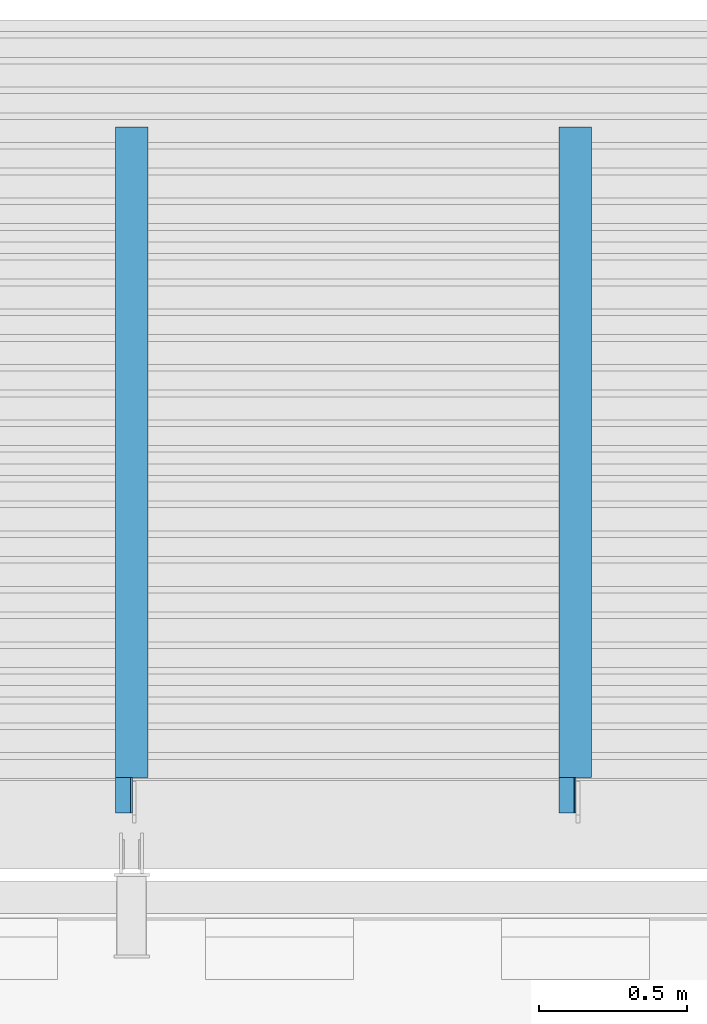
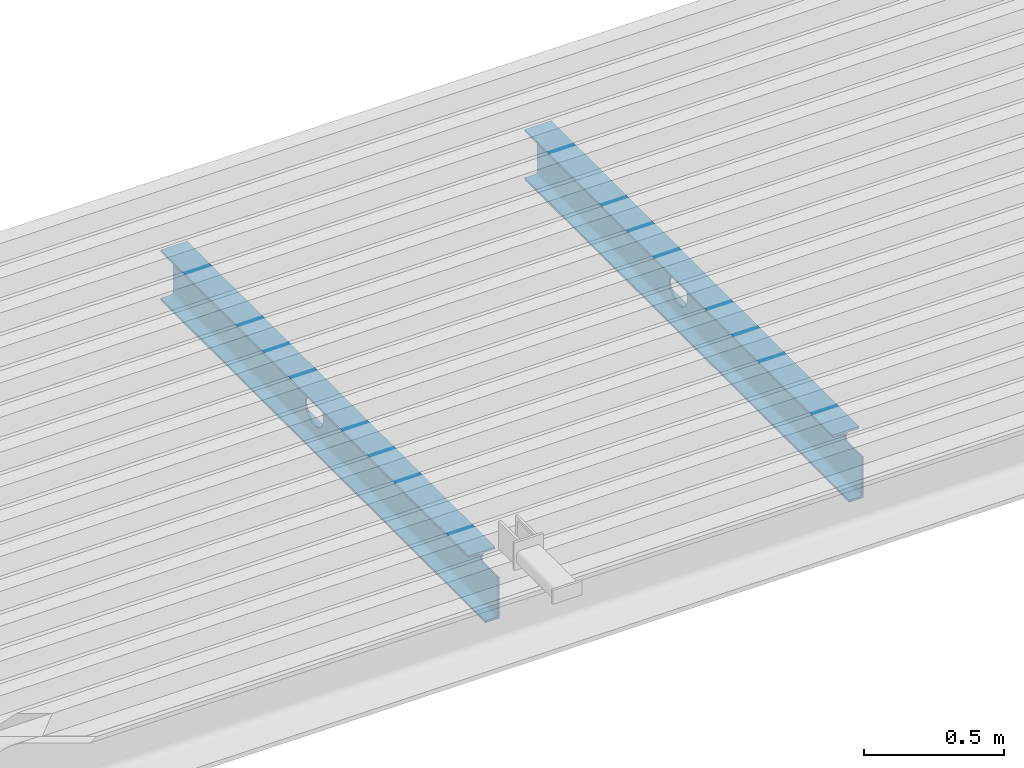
# One storey, part 27 of 34: 2 beams.
"""IFC2X3 building model written with IfcOpenShell, lengths in millimetres."""

from ifc_helpers import new_model, entity, si_unit, converted_unit, derived_unit, direction, frame, origin_with_axes, place, context, subcontext, project, spatial, faceted_brep, type_object, element, save


model = new_model("IFC2X3")

# Units and contexts
model_context = context("Model", 3, precision=0.01, world=frame((0.0, 4.29681676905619e-09, 0.0)), true_north=direction((4.01073788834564e-13, 1.0)))
plan_context = context("Plan", 3, precision=0.01, world=frame((0.0, 4.29681676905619e-09, 0.0)), true_north=direction((4.01073788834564e-13, 1.0)))
body_context = subcontext(model_context, "Body", "Model", "MODEL_VIEW")
ifc_project = project(units=[converted_unit("PLANEANGLEUNIT", "DEGREE", entity("IfcPositiveLengthMeasure", 0.0174532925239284), si_unit("PLANEANGLEUNIT", "RADIAN"), dimensions=[0, 0, 0, 0, 0, 0, 0]), si_unit("AREAUNIT", "SQUARE_METRE"), si_unit("LENGTHUNIT", "METRE", prefix="MILLI"), si_unit("MASSUNIT", "GRAM", prefix="KILO"), si_unit("POWERUNIT", "WATT"), si_unit("PRESSUREUNIT", "PASCAL"), si_unit("FORCEUNIT", "NEWTON", prefix="KILO"), si_unit("ELECTRICVOLTAGEUNIT", "VOLT"), si_unit("ELECTRICCURRENTUNIT", "AMPERE"), si_unit("THERMODYNAMICTEMPERATUREUNIT", "DEGREE_CELSIUS"), si_unit("TIMEUNIT", "SECOND"), si_unit("VOLUMEUNIT", "CUBIC_METRE"), derived_unit("LINEARVELOCITYUNIT", [(si_unit("LENGTHUNIT", "METRE"), 1), (si_unit("TIMEUNIT", "SECOND"), -1)]), derived_unit("VOLUMETRICFLOWRATEUNIT", [(si_unit("VOLUMEUNIT", "CUBIC_METRE"), 1), (si_unit("TIMEUNIT", "SECOND"), -1)]), derived_unit("THERMALTRANSMITTANCEUNIT", [(si_unit("POWERUNIT", "WATT"), 1), (si_unit("THERMODYNAMICTEMPERATUREUNIT", "KELVIN"), -1), (si_unit("AREAUNIT", "SQUARE_METRE"), -1)]), derived_unit("SOUNDPRESSUREUNIT", [(si_unit("PRESSUREUNIT", "PASCAL"), 1)])], contexts=[model_context, plan_context])

# Site, building, storey
site_placement = place(None, frame((0.0, -4.29681676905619e-09, 0.0), z_axis=(0.0, 0.0, 1.0), x_axis=(1.0, 0.0, 0.0)))
site = spatial("IfcSite", under=ifc_project, at=site_placement, Name="Gardermoen", CompositionType="ELEMENT")
building_placement = place(site_placement, frame((0.0, 4.29681676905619e-09, 0.0), z_axis=(0.0, 0.0, 1.0), x_axis=(1.0, 0.0, 0.0)))
building = spatial("IfcBuilding", under=site, at=building_placement, Name="TH", CompositionType="ELEMENT")
storey_placement = place(building_placement, origin_with_axes())
storey = spatial("IfcBuildingStorey", under=building, at=storey_placement, Name="F", CompositionType="ELEMENT", Elevation=0.0)

# Beams
beam_type = type_object("IfcBeamType", Name="IPE220", PredefinedType="NOTDEFINED")
beam_1_placement = place(storey_placement, frame((903999.999781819, 485029.995624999, 213310.0), z_axis=(0.0, 0.0, 1.0), x_axis=(0.0, 1.0, 0.0)))
element("IfcBeam", 1, at=beam_1_placement, inside=storey, type_object=beam_type, Name="STÅLBJELKE", ObjectType="IPE220", context=body_context, shape_type="Brep", body=[
    faceted_brep([(2327.65437500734, -55.0, -110.0), (2327.65437500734, 55.0, -110.0), (9.99999999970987, 55.0, -110.0), (9.99999999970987, -2.9500000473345, -110.0), (129.999999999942, -2.95000004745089, -110.0), (129.999999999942, -55.0, -110.0), (2327.65437500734, -55.0, -100.800000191), (129.999999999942, -55.0, -100.800000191), (2327.65437500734, -14.9500000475, -100.800000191), (129.999999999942, -14.9500000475, -100.800000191), (2327.65437500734, -12.6089161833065, -100.569423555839), (129.999999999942, -12.6089161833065, -100.569423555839), (2327.65437500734, -10.3577988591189, -99.8865545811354), (129.999999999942, -10.3577988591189, -99.8865545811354), (2327.65437500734, -8.28315725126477, -98.7776355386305), (129.999999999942, -8.28315725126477, -98.7776355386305), (2327.65437500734, -6.46471867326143, -97.2852815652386), (129.999999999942, -6.46471867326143, -97.2852815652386), (2327.65437500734, -4.97236469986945, -95.4668429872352), (129.999999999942, -4.97236469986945, -95.4668429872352), (2327.65437500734, -3.86344565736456, -93.3922013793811), (129.999999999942, -3.86344565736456, -93.3922013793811), (2327.65437500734, -3.18057668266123, -91.1410840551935), (129.999999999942, -3.18057668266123, -91.1410840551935), (2327.65437500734, -2.9500000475, -88.800000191), (129.999999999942, -2.96969830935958, -89.0), (9.99999999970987, -2.96969830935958, -89.0), (9.99999999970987, -2.9500000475, -88.800000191), (2327.65437500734, -2.9500000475, 88.800000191), (9.99999999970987, -2.9500000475, 70.0), (120.000000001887, -2.9500000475, 69.9999999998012), (121.564344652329, -2.9500000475, 70.1231165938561), (123.090169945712, -2.9500000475, 70.4894348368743), (124.539904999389, -2.9500000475, 71.0899347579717), (125.87785252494, -2.9500000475, 71.9098300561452), (127.071067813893, -2.9500000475, 72.9289321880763), (128.090169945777, -2.9500000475, 74.1221474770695), (128.910065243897, -2.9500000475, 75.4600950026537), (129.510565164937, -2.9500000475, 76.9098300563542), (129.876883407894, -2.9500000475, 78.4356553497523), (130.000000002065, -2.9500000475, 79.999999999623), (130.000000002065, -2.9500000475, 88.800000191), (1319.99999644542, -2.95000004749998, -62.4999973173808), (1330.28716071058, -2.95000004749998, -61.6475789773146), (1340.29371582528, -2.95000004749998, -59.113575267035), (1349.74671125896, -2.95000004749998, -54.9671072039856), (1358.38829393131, -2.95000004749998, -49.3212796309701), (1365.98274398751, -2.95000004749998, -42.3300960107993), (1372.32290462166, -2.95000004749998, -34.1842576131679), (1377.23583277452, -2.95000004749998, -25.1059616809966), (1380.58751656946, -2.95000004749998, -15.3428404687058), (1382.28653080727, -2.95000004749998, -5.16120647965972), (1382.28653080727, -2.95000004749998, 5.16121184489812), (1380.58751656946, -2.95000004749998, 15.3428458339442), (1377.23583277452, -2.95000004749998, 25.105967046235), (1372.32290462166, -2.95000004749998, 34.1842629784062), (1365.98274398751, -2.95000004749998, 42.3301013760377), (1358.38829393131, -2.95000004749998, 49.3212849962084), (1349.74671125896, -2.95000004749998, 54.9671125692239), (1340.29371582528, -2.95000004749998, 59.1135806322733), (1330.28716071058, -2.95000004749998, 61.6475843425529), (1319.99999866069, -2.95000004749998, 62.5000026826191), (1309.14699239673, -2.95000004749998, 61.5504878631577), (1298.62374438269, -2.95000004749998, 58.7307926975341), (1288.75000307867, -2.95000004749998, 54.1265921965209), (1279.82577711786, -2.95000004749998, 47.8777826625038), (1272.12222459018, -2.95000004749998, 40.1742310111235), (1265.87341404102, -2.95000004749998, 31.250005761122), (1261.26921241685, -2.95000004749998, 21.3762649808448), (1258.44951605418, -2.95000004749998, 10.8530172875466), (1257.50000000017, -2.95000004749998, 6.23736814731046e-06), (1258.44951481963, -2.95000004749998, -10.8530049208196), (1261.26920998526, -2.95000004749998, -21.3762529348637), (1265.87341048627, -2.95000004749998, -31.2499942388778), (1272.12222002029, -2.95000004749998, -40.1742201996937), (1279.82577167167, -2.95000004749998, -47.8777727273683), (1288.74999692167, -2.95000004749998, -54.1265832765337), (1298.62373770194, -2.95000004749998, -58.7307849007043), (1309.14698539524, -2.95000004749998, -61.5504812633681), (2327.65437500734, -3.18057668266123, 91.1410840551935), (130.000000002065, -3.18057668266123, 91.1410840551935), (2327.65437500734, -3.86344565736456, 93.3922013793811), (130.000000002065, -3.86344565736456, 93.3922013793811), (2327.65437500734, -4.97236469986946, 95.4668429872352), (130.000000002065, -4.97236469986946, 95.4668429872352), (2327.65437500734, -6.46471867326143, 97.2852815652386), (130.000000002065, -6.46471867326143, 97.2852815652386), (2327.65437500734, -8.28315725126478, 98.7776355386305), (130.000000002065, -8.28315725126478, 98.7776355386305), (2327.65437500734, -10.3577988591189, 99.8865545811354), (130.000000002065, -10.3577988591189, 99.8865545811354), (2327.65437500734, -12.6089161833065, 100.569423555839), (130.000000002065, -12.6089161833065, 100.569423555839), (2327.65437500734, -14.9500000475, 100.800000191), (130.000000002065, -14.9500000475, 100.800000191), (2327.65437500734, -55.0, 100.800000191), (130.000000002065, -55.0, 100.800000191), (2327.65437500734, -55.0, 110.0), (130.000000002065, -55.0, 110.0), (2327.65437500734, 55.0, 110.0), (130.000000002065, 55.0, 110.0), (2327.65437500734, 55.0, 100.800000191), (130.000000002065, 55.0, 100.800000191), (2327.65437500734, 14.9500000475, 100.800000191), (130.000000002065, 14.9500000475, 100.800000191), (2327.65437500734, 12.6089161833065, 100.569423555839), (130.000000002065, 12.6089161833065, 100.569423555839), (2327.65437500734, 10.3577988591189, 99.8865545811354), (130.000000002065, 10.3577988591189, 99.8865545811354), (2327.65437500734, 8.28315725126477, 98.7776355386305), (130.000000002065, 8.28315725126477, 98.7776355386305), (2327.65437500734, 6.46471867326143, 97.2852815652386), (130.000000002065, 6.46471867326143, 97.2852815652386), (2327.65437500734, 4.97236469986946, 95.4668429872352), (130.000000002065, 4.97236469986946, 95.4668429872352), (2327.65437500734, 3.86344565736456, 93.3922013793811), (130.000000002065, 3.86344565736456, 93.3922013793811), (2327.65437500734, 3.18057668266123, 91.1410840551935), (130.000000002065, 3.18057668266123, 91.1410840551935), (2327.65437500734, 2.9500000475, 88.800000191), (130.000000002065, 2.9500000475, 88.800000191), (2327.65437500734, 2.9500000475, -88.800000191), (130.000000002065, 2.95000004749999, 79.999999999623), (129.876883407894, 2.95000004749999, 78.4356553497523), (129.510565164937, 2.95000004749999, 76.9098300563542), (128.910065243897, 2.95000004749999, 75.4600950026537), (128.090169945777, 2.95000004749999, 74.1221474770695), (127.071067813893, 2.95000004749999, 72.9289321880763), (125.87785252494, 2.95000004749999, 71.9098300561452), (124.539904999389, 2.95000004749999, 71.0899347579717), (123.090169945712, 2.95000004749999, 70.4894348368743), (121.564344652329, 2.95000004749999, 70.1231165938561), (120.000000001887, 2.95000004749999, 69.9999999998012), (9.99999999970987, 2.9500000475, 70.0), (9.99999999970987, 2.9500000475, -88.800000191), (1330.28716071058, 2.95000004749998, -61.6475789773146), (1319.99999644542, 2.95000004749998, -62.4999973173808), (1309.14698539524, 2.95000004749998, -61.5504812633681), (1298.62373770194, 2.95000004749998, -58.7307849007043), (1288.74999692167, 2.95000004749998, -54.1265832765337), (1279.82577167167, 2.95000004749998, -47.8777727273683), (1272.12222002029, 2.95000004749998, -40.1742201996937), (1265.87341048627, 2.95000004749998, -31.2499942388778), (1261.26920998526, 2.95000004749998, -21.3762529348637), (1258.44951481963, 2.95000004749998, -10.8530049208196), (1257.50000000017, 2.95000004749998, 6.23736814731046e-06), (1258.44951605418, 2.95000004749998, 10.8530172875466), (1261.26921241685, 2.95000004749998, 21.3762649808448), (1265.87341404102, 2.95000004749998, 31.250005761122), (1272.12222459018, 2.95000004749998, 40.1742310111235), (1279.82577711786, 2.95000004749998, 47.8777826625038), (1288.75000307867, 2.95000004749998, 54.1265921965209), (1298.62374438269, 2.95000004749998, 58.7307926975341), (1309.14699239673, 2.95000004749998, 61.5504878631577), (1319.99999866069, 2.95000004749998, 62.5000026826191), (1330.28716071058, 2.95000004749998, 61.6475843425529), (1340.29371582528, 2.95000004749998, 59.1135806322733), (1349.74671125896, 2.95000004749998, 54.9671125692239), (1358.38829393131, 2.95000004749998, 49.3212849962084), (1365.98274398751, 2.95000004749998, 42.3301013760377), (1372.32290462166, 2.95000004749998, 34.1842629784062), (1377.23583277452, 2.95000004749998, 25.105967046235), (1380.58751656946, 2.95000004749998, 15.3428458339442), (1382.28653080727, 2.95000004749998, 5.16121184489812), (1382.28653080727, 2.95000004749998, -5.16120647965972), (1380.58751656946, 2.95000004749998, -15.3428404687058), (1377.23583277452, 2.95000004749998, -25.1059616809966), (1372.32290462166, 2.95000004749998, -34.1842576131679), (1365.98274398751, 2.95000004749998, -42.3300960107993), (1358.38829393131, 2.95000004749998, -49.3212796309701), (1349.74671125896, 2.95000004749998, -54.9671072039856), (1340.29371582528, 2.95000004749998, -59.113575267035), (2327.65437500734, 3.18057668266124, -91.1410840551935), (9.99999999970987, 3.18057668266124, -91.1410840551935), (2327.65437500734, 3.86344565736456, -93.3922013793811), (9.99999999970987, 3.86344565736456, -93.3922013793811), (2327.65437500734, 4.97236469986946, -95.4668429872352), (9.99999999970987, 4.97236469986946, -95.4668429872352), (2327.65437500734, 6.46471867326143, -97.2852815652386), (9.99999999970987, 6.46471867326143, -97.2852815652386), (2327.65437500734, 8.28315725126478, -98.7776355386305), (9.99999999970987, 8.28315725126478, -98.7776355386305), (2327.65437500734, 10.3577988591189, -99.8865545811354), (9.99999999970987, 10.3577988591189, -99.8865545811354), (2327.65437500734, 12.6089161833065, -100.569423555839), (9.99999999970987, 12.6089161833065, -100.569423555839), (2327.65437500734, 14.9500000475, -100.800000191), (9.99999999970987, 14.9500000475, -100.800000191), (2327.65437500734, 55.0, -100.800000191), (9.99999999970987, 55.0, -100.800000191), (129.999999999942, -2.95000004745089, -89.0), (9.99999999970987, -2.95000004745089, -89.0)], [[[0, 1, 2, 3, 4, 5]], [[6, 0, 5, 7]], [[8, 6, 7, 9]], [[10, 8, 9, 11]], [[12, 10, 11, 13]], [[14, 12, 13, 15]], [[16, 14, 15, 17]], [[18, 16, 17, 19]], [[20, 18, 19, 21]], [[22, 20, 21, 23]], [[24, 22, 23, 25, 26, 27]], [[28, 24, 27, 29, 30, 31, 32, 33, 34, 35, 36, 37, 38, 39, 40, 41], [42, 43, 44, 45, 46, 47, 48, 49, 50, 51, 52, 53, 54, 55, 56, 57, 58, 59, 60, 61, 62, 63, 64, 65, 66, 67, 68, 69, 70, 71, 72, 73, 74, 75, 76, 77, 78]], [[79, 28, 41, 80]], [[81, 79, 80, 82]], [[83, 81, 82, 84]], [[85, 83, 84, 86]], [[87, 85, 86, 88]], [[89, 87, 88, 90]], [[91, 89, 90, 92]], [[93, 91, 92, 94]], [[95, 93, 94, 96]], [[97, 95, 96, 98]], [[99, 97, 98, 100]], [[101, 99, 100, 102]], [[103, 101, 102, 104]], [[105, 103, 104, 106]], [[107, 105, 106, 108]], [[109, 107, 108, 110]], [[111, 109, 110, 112]], [[113, 111, 112, 114]], [[115, 113, 114, 116]], [[117, 115, 116, 118]], [[119, 117, 118, 120]], [[121, 119, 120, 122, 123, 124, 125, 126, 127, 128, 129, 130, 131, 132, 133, 134], [135, 136, 137, 138, 139, 140, 141, 142, 143, 144, 145, 146, 147, 148, 149, 150, 151, 152, 153, 154, 155, 156, 157, 158, 159, 160, 161, 162, 163, 164, 165, 166, 167, 168, 169, 170, 171]], [[172, 121, 134, 173]], [[174, 172, 173, 175]], [[176, 174, 175, 177]], [[178, 176, 177, 179]], [[180, 178, 179, 181]], [[182, 180, 181, 183]], [[184, 182, 183, 185]], [[186, 184, 185, 187]], [[188, 186, 187, 189]], [[1, 188, 189, 2]], [[43, 42, 136, 135]], [[42, 78, 137, 136]], [[78, 77, 138, 137]], [[77, 76, 139, 138]], [[76, 75, 140, 139]], [[75, 74, 141, 140]], [[74, 73, 142, 141]], [[73, 72, 143, 142]], [[72, 71, 144, 143]], [[71, 70, 145, 144]], [[70, 69, 146, 145]], [[69, 68, 147, 146]], [[68, 67, 148, 147]], [[67, 66, 149, 148]], [[66, 65, 150, 149]], [[65, 64, 151, 150]], [[64, 63, 152, 151]], [[63, 62, 153, 152]], [[62, 61, 154, 153]], [[61, 60, 155, 154]], [[60, 59, 156, 155]], [[59, 58, 157, 156]], [[58, 57, 158, 157]], [[57, 56, 159, 158]], [[56, 55, 160, 159]], [[55, 54, 161, 160]], [[54, 53, 162, 161]], [[53, 52, 163, 162]], [[52, 51, 164, 163]], [[51, 50, 165, 164]], [[50, 49, 166, 165]], [[49, 48, 167, 166]], [[48, 47, 168, 167]], [[47, 46, 169, 168]], [[46, 45, 170, 169]], [[45, 44, 171, 170]], [[44, 43, 135, 171]], [[190, 25, 23, 21, 19, 17, 15, 13, 11, 9, 7, 5, 4]], [[190, 191, 26, 25]], [[190, 4, 3, 191]], [[30, 29, 133, 132]], [[132, 131, 31, 30]], [[131, 130, 32, 31]], [[130, 129, 33, 32]], [[129, 128, 34, 33]], [[128, 127, 35, 34]], [[127, 126, 36, 35]], [[126, 125, 37, 36]], [[125, 124, 38, 37]], [[124, 123, 39, 38]], [[123, 122, 40, 39]], [[122, 120, 118, 116, 114, 112, 110, 108, 106, 104, 102, 100, 98, 96, 94, 92, 90, 88, 86, 84, 82, 80, 41, 40]], [[26, 191, 3, 2, 189, 187, 185, 183, 181, 179, 177, 175, 173, 134, 133, 29, 27]], [[6, 8, 10, 12, 14, 16, 18, 20, 22, 24, 28, 79, 81, 83, 85, 87, 89, 91, 93, 95, 97, 99, 101, 103, 105, 107, 109, 111, 113, 115, 117, 119, 121, 172, 174, 176, 178, 180, 182, 184, 186, 188, 1, 0]]], orient=[[False], [False], [False], [False], [False], [False], [False], [False], [False], [False], [False], [False, False], [False], [False], [False], [False], [False], [False], [False], [False], [False], [False], [False], [False], [False], [False], [False], [False], [False], [False], [False], [False], [False], [False, False], [False], [False], [False], [False], [False], [False], [False], [False], [False], [False], [False], [False], [False], [False], [False], [False], [False], [False], [False], [False], [False], [False], [False], [False], [False], [False], [False], [False], [False], [False], [False], [False], [False], [False], [False], [False], [False], [False], [False], [False], [False], [False], [False], [False], [False], [False], [False], [False], [False], [False], [False], [False], [False], [False], [False], [False], [False], [False], [False], [False], [False], [False], [False], [False]]),
])
beam_2_placement = place(storey_placement, frame((905499.999781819, 485029.995624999, 213310.0), z_axis=(0.0, 0.0, 1.0), x_axis=(0.0, 1.0, 0.0)))
element("IfcBeam", 2, at=beam_2_placement, inside=storey, type_object=beam_type, Name="STÅLBJELKE", ObjectType="IPE220", context=body_context, shape_type="Brep", body=[
    faceted_brep([(2327.65437500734, -55.0, -110.0), (2327.65437500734, 55.0, -110.0), (9.99999999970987, 55.0, -110.0), (9.99999999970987, -2.9500000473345, -110.0), (129.999999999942, -2.95000004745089, -110.0), (129.999999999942, -55.0, -110.0), (2327.65437500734, -55.0, -100.800000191), (129.999999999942, -55.0, -100.800000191), (2327.65437500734, -14.9500000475, -100.800000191), (129.999999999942, -14.9500000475, -100.800000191), (2327.65437500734, -12.6089161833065, -100.569423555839), (129.999999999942, -12.6089161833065, -100.569423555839), (2327.65437500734, -10.3577988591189, -99.8865545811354), (129.999999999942, -10.3577988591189, -99.8865545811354), (2327.65437500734, -8.28315725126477, -98.7776355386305), (129.999999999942, -8.28315725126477, -98.7776355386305), (2327.65437500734, -6.46471867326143, -97.2852815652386), (129.999999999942, -6.46471867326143, -97.2852815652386), (2327.65437500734, -4.97236469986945, -95.4668429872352), (129.999999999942, -4.97236469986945, -95.4668429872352), (2327.65437500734, -3.86344565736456, -93.3922013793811), (129.999999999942, -3.86344565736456, -93.3922013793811), (2327.65437500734, -3.18057668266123, -91.1410840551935), (129.999999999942, -3.18057668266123, -91.1410840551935), (2327.65437500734, -2.9500000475, -88.800000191), (129.999999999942, -2.96969830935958, -89.0), (9.99999999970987, -2.96969830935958, -89.0), (9.99999999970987, -2.9500000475, -88.800000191), (2327.65437500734, -2.9500000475, 88.800000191), (9.99999999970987, -2.9500000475, 70.0), (120.000000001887, -2.9500000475, 69.9999999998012), (121.564344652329, -2.9500000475, 70.1231165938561), (123.090169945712, -2.9500000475, 70.4894348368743), (124.539904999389, -2.9500000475, 71.0899347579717), (125.87785252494, -2.9500000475, 71.9098300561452), (127.071067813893, -2.9500000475, 72.9289321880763), (128.090169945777, -2.9500000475, 74.1221474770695), (128.910065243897, -2.9500000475, 75.4600950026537), (129.510565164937, -2.9500000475, 76.9098300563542), (129.876883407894, -2.9500000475, 78.4356553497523), (130.000000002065, -2.9500000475, 79.999999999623), (130.000000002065, -2.9500000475, 88.800000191), (1319.99999644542, -2.95000004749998, -62.4999973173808), (1330.28716071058, -2.95000004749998, -61.6475789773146), (1340.29371582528, -2.95000004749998, -59.113575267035), (1349.74671125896, -2.95000004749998, -54.9671072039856), (1358.38829393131, -2.95000004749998, -49.3212796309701), (1365.98274398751, -2.95000004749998, -42.3300960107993), (1372.32290462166, -2.95000004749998, -34.1842576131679), (1377.23583277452, -2.95000004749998, -25.1059616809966), (1380.58751656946, -2.95000004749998, -15.3428404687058), (1382.28653080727, -2.95000004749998, -5.16120647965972), (1382.28653080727, -2.95000004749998, 5.16121184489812), (1380.58751656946, -2.95000004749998, 15.3428458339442), (1377.23583277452, -2.95000004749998, 25.105967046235), (1372.32290462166, -2.95000004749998, 34.1842629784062), (1365.98274398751, -2.95000004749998, 42.3301013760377), (1358.38829393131, -2.95000004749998, 49.3212849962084), (1349.74671125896, -2.95000004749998, 54.9671125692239), (1340.29371582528, -2.95000004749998, 59.1135806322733), (1330.28716071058, -2.95000004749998, 61.6475843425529), (1319.99999866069, -2.95000004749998, 62.5000026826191), (1309.14699239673, -2.95000004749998, 61.5504878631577), (1298.62374438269, -2.95000004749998, 58.7307926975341), (1288.75000307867, -2.95000004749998, 54.1265921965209), (1279.82577711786, -2.95000004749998, 47.8777826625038), (1272.12222459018, -2.95000004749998, 40.1742310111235), (1265.87341404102, -2.95000004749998, 31.250005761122), (1261.26921241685, -2.95000004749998, 21.3762649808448), (1258.44951605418, -2.95000004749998, 10.8530172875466), (1257.50000000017, -2.95000004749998, 6.23736814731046e-06), (1258.44951481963, -2.95000004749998, -10.8530049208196), (1261.26920998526, -2.95000004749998, -21.3762529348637), (1265.87341048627, -2.95000004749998, -31.2499942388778), (1272.12222002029, -2.95000004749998, -40.1742201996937), (1279.82577167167, -2.95000004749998, -47.8777727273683), (1288.74999692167, -2.95000004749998, -54.1265832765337), (1298.62373770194, -2.95000004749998, -58.7307849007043), (1309.14698539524, -2.95000004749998, -61.5504812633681), (2327.65437500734, -3.18057668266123, 91.1410840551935), (130.000000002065, -3.18057668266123, 91.1410840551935), (2327.65437500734, -3.86344565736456, 93.3922013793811), (130.000000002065, -3.86344565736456, 93.3922013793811), (2327.65437500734, -4.97236469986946, 95.4668429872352), (130.000000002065, -4.97236469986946, 95.4668429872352), (2327.65437500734, -6.46471867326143, 97.2852815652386), (130.000000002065, -6.46471867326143, 97.2852815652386), (2327.65437500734, -8.28315725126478, 98.7776355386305), (130.000000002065, -8.28315725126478, 98.7776355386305), (2327.65437500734, -10.3577988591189, 99.8865545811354), (130.000000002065, -10.3577988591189, 99.8865545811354), (2327.65437500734, -12.6089161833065, 100.569423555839), (130.000000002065, -12.6089161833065, 100.569423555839), (2327.65437500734, -14.9500000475, 100.800000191), (130.000000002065, -14.9500000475, 100.800000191), (2327.65437500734, -55.0, 100.800000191), (130.000000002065, -55.0, 100.800000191), (2327.65437500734, -55.0, 110.0), (130.000000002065, -55.0, 110.0), (2327.65437500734, 55.0, 110.0), (130.000000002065, 55.0, 110.0), (2327.65437500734, 55.0, 100.800000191), (130.000000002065, 55.0, 100.800000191), (2327.65437500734, 14.9500000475, 100.800000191), (130.000000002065, 14.9500000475, 100.800000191), (2327.65437500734, 12.6089161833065, 100.569423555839), (130.000000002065, 12.6089161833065, 100.569423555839), (2327.65437500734, 10.3577988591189, 99.8865545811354), (130.000000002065, 10.3577988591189, 99.8865545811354), (2327.65437500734, 8.28315725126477, 98.7776355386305), (130.000000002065, 8.28315725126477, 98.7776355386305), (2327.65437500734, 6.46471867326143, 97.2852815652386), (130.000000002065, 6.46471867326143, 97.2852815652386), (2327.65437500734, 4.97236469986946, 95.4668429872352), (130.000000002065, 4.97236469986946, 95.4668429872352), (2327.65437500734, 3.86344565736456, 93.3922013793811), (130.000000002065, 3.86344565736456, 93.3922013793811), (2327.65437500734, 3.18057668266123, 91.1410840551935), (130.000000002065, 3.18057668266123, 91.1410840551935), (2327.65437500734, 2.9500000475, 88.800000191), (130.000000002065, 2.9500000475, 88.800000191), (2327.65437500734, 2.9500000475, -88.800000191), (130.000000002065, 2.95000004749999, 79.999999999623), (129.876883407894, 2.95000004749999, 78.4356553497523), (129.510565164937, 2.95000004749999, 76.9098300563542), (128.910065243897, 2.95000004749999, 75.4600950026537), (128.090169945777, 2.95000004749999, 74.1221474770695), (127.071067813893, 2.95000004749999, 72.9289321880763), (125.87785252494, 2.95000004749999, 71.9098300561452), (124.539904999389, 2.95000004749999, 71.0899347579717), (123.090169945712, 2.95000004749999, 70.4894348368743), (121.564344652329, 2.95000004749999, 70.1231165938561), (120.000000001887, 2.95000004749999, 69.9999999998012), (9.99999999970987, 2.9500000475, 70.0), (9.99999999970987, 2.9500000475, -88.800000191), (1330.28716071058, 2.95000004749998, -61.6475789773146), (1319.99999644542, 2.95000004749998, -62.4999973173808), (1309.14698539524, 2.95000004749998, -61.5504812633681), (1298.62373770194, 2.95000004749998, -58.7307849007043), (1288.74999692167, 2.95000004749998, -54.1265832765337), (1279.82577167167, 2.95000004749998, -47.8777727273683), (1272.12222002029, 2.95000004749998, -40.1742201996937), (1265.87341048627, 2.95000004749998, -31.2499942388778), (1261.26920998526, 2.95000004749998, -21.3762529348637), (1258.44951481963, 2.95000004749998, -10.8530049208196), (1257.50000000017, 2.95000004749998, 6.23736814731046e-06), (1258.44951605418, 2.95000004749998, 10.8530172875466), (1261.26921241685, 2.95000004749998, 21.3762649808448), (1265.87341404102, 2.95000004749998, 31.250005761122), (1272.12222459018, 2.95000004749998, 40.1742310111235), (1279.82577711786, 2.95000004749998, 47.8777826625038), (1288.75000307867, 2.95000004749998, 54.1265921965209), (1298.62374438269, 2.95000004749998, 58.7307926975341), (1309.14699239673, 2.95000004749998, 61.5504878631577), (1319.99999866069, 2.95000004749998, 62.5000026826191), (1330.28716071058, 2.95000004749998, 61.6475843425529), (1340.29371582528, 2.95000004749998, 59.1135806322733), (1349.74671125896, 2.95000004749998, 54.9671125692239), (1358.38829393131, 2.95000004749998, 49.3212849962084), (1365.98274398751, 2.95000004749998, 42.3301013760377), (1372.32290462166, 2.95000004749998, 34.1842629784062), (1377.23583277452, 2.95000004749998, 25.105967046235), (1380.58751656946, 2.95000004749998, 15.3428458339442), (1382.28653080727, 2.95000004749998, 5.16121184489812), (1382.28653080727, 2.95000004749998, -5.16120647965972), (1380.58751656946, 2.95000004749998, -15.3428404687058), (1377.23583277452, 2.95000004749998, -25.1059616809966), (1372.32290462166, 2.95000004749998, -34.1842576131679), (1365.98274398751, 2.95000004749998, -42.3300960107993), (1358.38829393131, 2.95000004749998, -49.3212796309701), (1349.74671125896, 2.95000004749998, -54.9671072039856), (1340.29371582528, 2.95000004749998, -59.113575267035), (2327.65437500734, 3.18057668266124, -91.1410840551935), (9.99999999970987, 3.18057668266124, -91.1410840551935), (2327.65437500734, 3.86344565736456, -93.3922013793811), (9.99999999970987, 3.86344565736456, -93.3922013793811), (2327.65437500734, 4.97236469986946, -95.4668429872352), (9.99999999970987, 4.97236469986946, -95.4668429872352), (2327.65437500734, 6.46471867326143, -97.2852815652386), (9.99999999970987, 6.46471867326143, -97.2852815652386), (2327.65437500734, 8.28315725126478, -98.7776355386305), (9.99999999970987, 8.28315725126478, -98.7776355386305), (2327.65437500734, 10.3577988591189, -99.8865545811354), (9.99999999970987, 10.3577988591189, -99.8865545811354), (2327.65437500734, 12.6089161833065, -100.569423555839), (9.99999999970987, 12.6089161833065, -100.569423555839), (2327.65437500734, 14.9500000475, -100.800000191), (9.99999999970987, 14.9500000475, -100.800000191), (2327.65437500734, 55.0, -100.800000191), (9.99999999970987, 55.0, -100.800000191), (129.999999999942, -2.95000004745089, -89.0), (9.99999999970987, -2.95000004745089, -89.0)], [[[0, 1, 2, 3, 4, 5]], [[6, 0, 5, 7]], [[8, 6, 7, 9]], [[10, 8, 9, 11]], [[12, 10, 11, 13]], [[14, 12, 13, 15]], [[16, 14, 15, 17]], [[18, 16, 17, 19]], [[20, 18, 19, 21]], [[22, 20, 21, 23]], [[24, 22, 23, 25, 26, 27]], [[28, 24, 27, 29, 30, 31, 32, 33, 34, 35, 36, 37, 38, 39, 40, 41], [42, 43, 44, 45, 46, 47, 48, 49, 50, 51, 52, 53, 54, 55, 56, 57, 58, 59, 60, 61, 62, 63, 64, 65, 66, 67, 68, 69, 70, 71, 72, 73, 74, 75, 76, 77, 78]], [[79, 28, 41, 80]], [[81, 79, 80, 82]], [[83, 81, 82, 84]], [[85, 83, 84, 86]], [[87, 85, 86, 88]], [[89, 87, 88, 90]], [[91, 89, 90, 92]], [[93, 91, 92, 94]], [[95, 93, 94, 96]], [[97, 95, 96, 98]], [[99, 97, 98, 100]], [[101, 99, 100, 102]], [[103, 101, 102, 104]], [[105, 103, 104, 106]], [[107, 105, 106, 108]], [[109, 107, 108, 110]], [[111, 109, 110, 112]], [[113, 111, 112, 114]], [[115, 113, 114, 116]], [[117, 115, 116, 118]], [[119, 117, 118, 120]], [[121, 119, 120, 122, 123, 124, 125, 126, 127, 128, 129, 130, 131, 132, 133, 134], [135, 136, 137, 138, 139, 140, 141, 142, 143, 144, 145, 146, 147, 148, 149, 150, 151, 152, 153, 154, 155, 156, 157, 158, 159, 160, 161, 162, 163, 164, 165, 166, 167, 168, 169, 170, 171]], [[172, 121, 134, 173]], [[174, 172, 173, 175]], [[176, 174, 175, 177]], [[178, 176, 177, 179]], [[180, 178, 179, 181]], [[182, 180, 181, 183]], [[184, 182, 183, 185]], [[186, 184, 185, 187]], [[188, 186, 187, 189]], [[1, 188, 189, 2]], [[43, 42, 136, 135]], [[42, 78, 137, 136]], [[78, 77, 138, 137]], [[77, 76, 139, 138]], [[76, 75, 140, 139]], [[75, 74, 141, 140]], [[74, 73, 142, 141]], [[73, 72, 143, 142]], [[72, 71, 144, 143]], [[71, 70, 145, 144]], [[70, 69, 146, 145]], [[69, 68, 147, 146]], [[68, 67, 148, 147]], [[67, 66, 149, 148]], [[66, 65, 150, 149]], [[65, 64, 151, 150]], [[64, 63, 152, 151]], [[63, 62, 153, 152]], [[62, 61, 154, 153]], [[61, 60, 155, 154]], [[60, 59, 156, 155]], [[59, 58, 157, 156]], [[58, 57, 158, 157]], [[57, 56, 159, 158]], [[56, 55, 160, 159]], [[55, 54, 161, 160]], [[54, 53, 162, 161]], [[53, 52, 163, 162]], [[52, 51, 164, 163]], [[51, 50, 165, 164]], [[50, 49, 166, 165]], [[49, 48, 167, 166]], [[48, 47, 168, 167]], [[47, 46, 169, 168]], [[46, 45, 170, 169]], [[45, 44, 171, 170]], [[44, 43, 135, 171]], [[190, 25, 23, 21, 19, 17, 15, 13, 11, 9, 7, 5, 4]], [[190, 191, 26, 25]], [[190, 4, 3, 191]], [[30, 29, 133, 132]], [[132, 131, 31, 30]], [[131, 130, 32, 31]], [[130, 129, 33, 32]], [[129, 128, 34, 33]], [[128, 127, 35, 34]], [[127, 126, 36, 35]], [[126, 125, 37, 36]], [[125, 124, 38, 37]], [[124, 123, 39, 38]], [[123, 122, 40, 39]], [[122, 120, 118, 116, 114, 112, 110, 108, 106, 104, 102, 100, 98, 96, 94, 92, 90, 88, 86, 84, 82, 80, 41, 40]], [[26, 191, 3, 2, 189, 187, 185, 183, 181, 179, 177, 175, 173, 134, 133, 29, 27]], [[6, 8, 10, 12, 14, 16, 18, 20, 22, 24, 28, 79, 81, 83, 85, 87, 89, 91, 93, 95, 97, 99, 101, 103, 105, 107, 109, 111, 113, 115, 117, 119, 121, 172, 174, 176, 178, 180, 182, 184, 186, 188, 1, 0]]], orient=[[False], [False], [False], [False], [False], [False], [False], [False], [False], [False], [False], [False, False], [False], [False], [False], [False], [False], [False], [False], [False], [False], [False], [False], [False], [False], [False], [False], [False], [False], [False], [False], [False], [False], [False, False], [False], [False], [False], [False], [False], [False], [False], [False], [False], [False], [False], [False], [False], [False], [False], [False], [False], [False], [False], [False], [False], [False], [False], [False], [False], [False], [False], [False], [False], [False], [False], [False], [False], [False], [False], [False], [False], [False], [False], [False], [False], [False], [False], [False], [False], [False], [False], [False], [False], [False], [False], [False], [False], [False], [False], [False], [False], [False], [False], [False], [False], [False], [False], [False]]),
])

save(model, "model.ifc")
